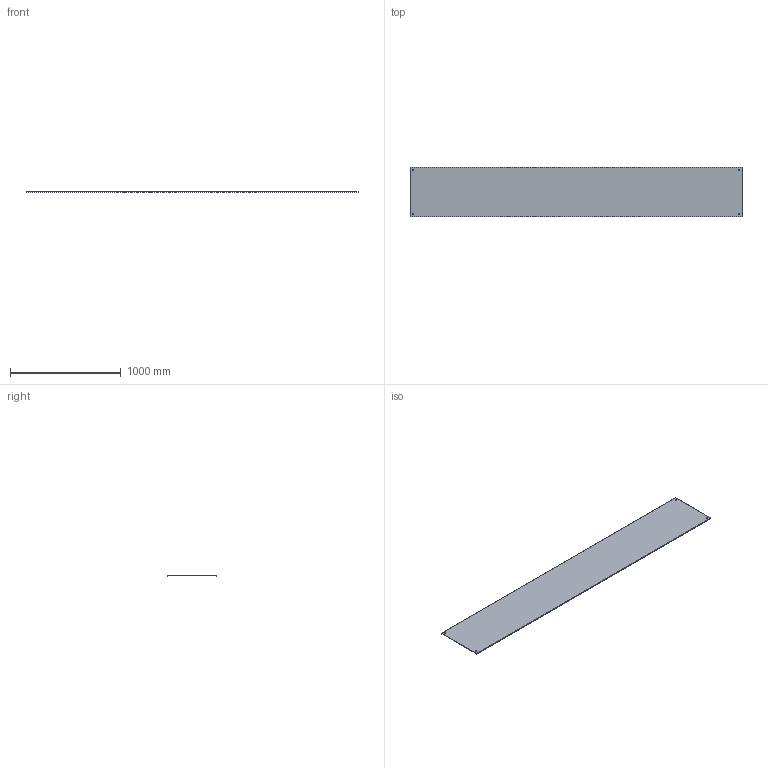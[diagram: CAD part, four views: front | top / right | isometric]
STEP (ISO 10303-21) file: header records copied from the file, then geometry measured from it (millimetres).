
FILE_DESCRIPTION(/* description */ ('','CAx-IF Rec.Pracs.---Representation and Presentation of Product Manufacturing Information (PMI)---4.0---2014-10-13'),/* implementation_level */ '2;1');
FILE_NAME(/* name */ 'Eurostrut_ECLSC-400_Straight Cover for Cable Ladder ECL.step',/* time_stamp */ '2026-09-08T14:26:52+02:00',/* author */ (''),/* organization */ (''),/* preprocessor_version */ 'ST-DEVELOPER v20.1',/* originating_system */ 'Autodesk Revit 2027 27.2.0.39',/* authorisation */ '');
FILE_SCHEMA (('AP242_MANAGED_MODEL_BASED_3D_ENGINEERING_MIM_LF { 1 0 10303 442 2 1 4 }'));
Length unit declared in the file: millimetre
Products named in the file (2): TopLevelAssembly; Extrusion
Assembly tree (1 placements, depth 2):
  TopLevelAssembly
    Extrusion
Bounding box: 3000 x 450 x 9 mm (x, y, z)
Volume: 2092028.8 mm3; surface area: 2799955.2 mm2
Topology: 1 solids, 1 shells, 18 faces, 48 edges, 32 vertices
Faces by surface type: plane 10, cylinder 8
Entity records: 618 total; most frequent: DIRECTION 106, CARTESIAN_POINT 101, ORIENTED_EDGE 96, EDGE_CURVE 48, AXIS2_PLACEMENT_3D 37, LINE 32, VECTOR 32, VERTEX_POINT 32
